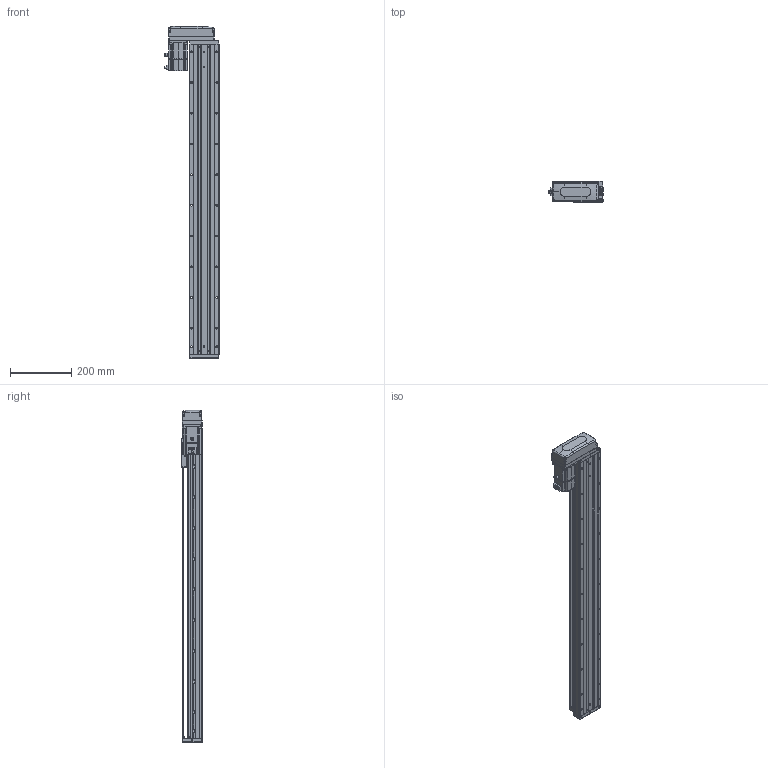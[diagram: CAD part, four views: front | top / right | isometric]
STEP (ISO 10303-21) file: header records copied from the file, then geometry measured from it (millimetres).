
FILE_DESCRIPTION (( 'STEP AP203' ), '1' );
FILE_NAME ('KTHA100-850-BR-M20-C4L.step', '2022-04-26T02:01:19', ( '微软用户' ), ( '微软中国' ), 'SwSTEP 2.0', 'SolidWorks 2020', '' );
FILE_SCHEMA (( 'CONFIG_CONTROL_DESIGN' ));
Length unit declared in the file: millimetre
Products named in the file (17): KTHA100-005; GBT70.1 M5℅16; GB¨uT 70.2-M3¡Á5_M3¡Á6; CTHA60-016; EE_SX911P_R; GBT 70.3-M3℅6; CTHA60-017; _X2_4E0983F1_X0_200W_1; KTHA100-001_1010; CTHA60-021; CTHA86-015-1_CTHA86-015-2; KTHA100-002; GBT77-2000 M3×3; CTHA86-033; KTHA100-004; GBT 70.1-M3℅6; KTHA100-850-BR-M20-C4L
Assembly tree (57 placements, depth 2):
  KTHA100-850-BR-M20-C4L
    KTHA100-001_1010
    KTHA100-002
    KTHA100-004
    KTHA100-005
    GB¨uT 70.2-M3¡Á5_M3¡Á6  x6
    EE_SX911P_R  x3
    CTHA60-017  x3
    CTHA60-021  x2
    GBT77-2000 M3×3  x6
    GBT 70.1-M3℅6  x10
    GBT70.1 M5℅16  x14
    CTHA60-016  x2
    GBT 70.3-M3℅6  x4
    _X2_4E0983F1_X0_200W_1
    CTHA86-015-1_CTHA86-015-2
    CTHA86-033
Bounding box: 178.52 x 68 x 1081 mm (x, y, z)
Volume: 4583027.8 mm3; surface area: 743787.1 mm2
Topology: 60 solids, 60 shells, 2497 faces, 6001 edges, 3724 vertices
Faces by surface type: plane 1280, cylinder 695, cone 315, torus 116, bspline 75, sphere 16
Entity records: 43886 total; most frequent: CARTESIAN_POINT 8784, DIRECTION 6822, ORIENTED_EDGE 6614, EDGE_CURVE 3307, AXIS2_PLACEMENT_3D 2370, VERTEX_POINT 2084, LINE 2082, VECTOR 2082
